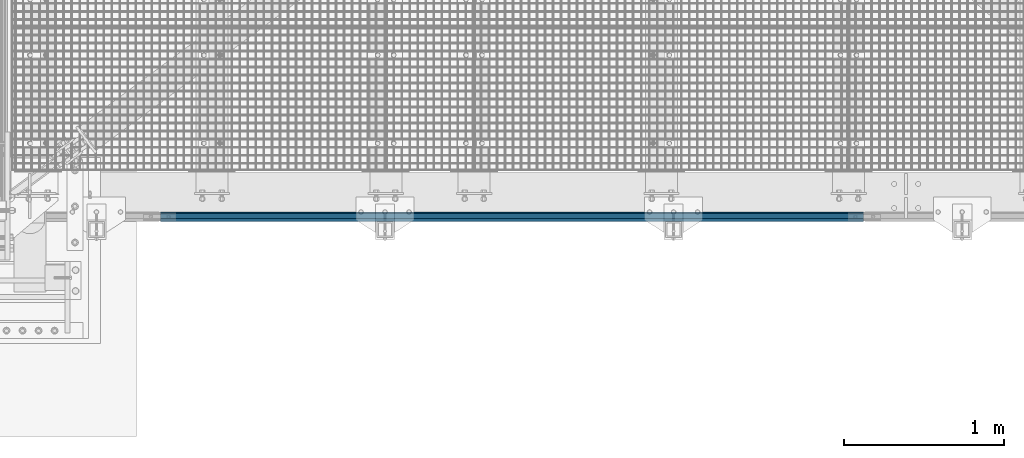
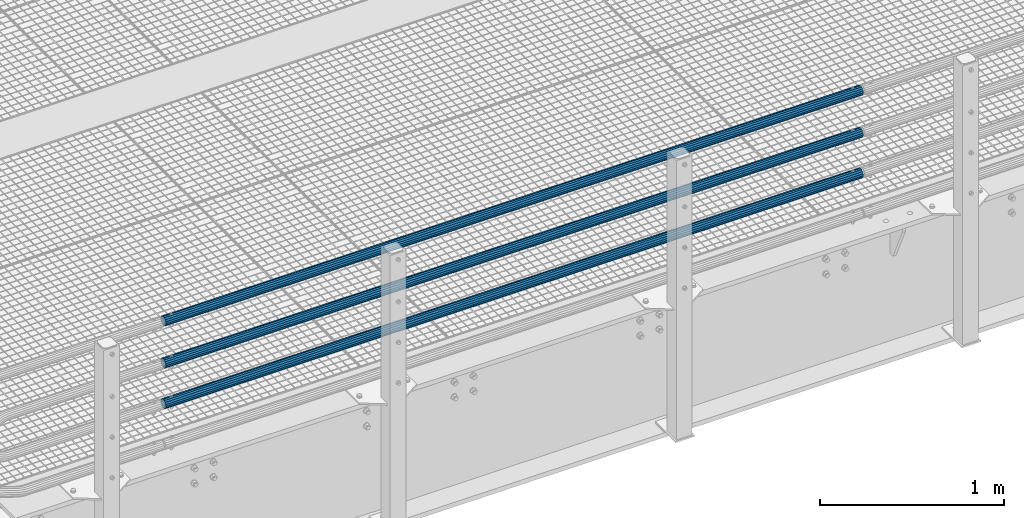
# One storey, part 160 of 1530: 3 beams.
"""IFC2X3 building model written with IfcOpenShell, lengths in millimetres."""

from ifc_helpers import new_model, si_unit, frame, origin_with_axes, place, context, subcontext, project, spatial, faceted_brep, material, type_object, element, save


model = new_model("IFC2X3")

# Units and contexts
model_context = context("Model", 3, precision=1e-05, world=origin_with_axes())
body_context = subcontext(model_context, "Body", "Model", "MODEL_VIEW")
ifc_project = project(units=[si_unit("LENGTHUNIT", "METRE", prefix="MILLI"), si_unit("AREAUNIT", "SQUARE_METRE"), si_unit("VOLUMEUNIT", "CUBIC_METRE"), si_unit("MASSUNIT", "GRAM", prefix="KILO"), si_unit("TIMEUNIT", "SECOND"), si_unit("PLANEANGLEUNIT", "RADIAN"), si_unit("SOLIDANGLEUNIT", "STERADIAN"), si_unit("THERMODYNAMICTEMPERATUREUNIT", "DEGREE_CELSIUS"), si_unit("LUMINOUSINTENSITYUNIT", "LUMEN")], contexts=[model_context])

# Site, building, storey
site_placement = place(None, origin_with_axes())
site = spatial("IfcSite", under=ifc_project, at=site_placement, Name="Brattvåg", CompositionType="ELEMENT")
building_placement = place(site_placement, origin_with_axes())
building = spatial("IfcBuilding", under=site, at=building_placement, Name="Undefined", CompositionType="ELEMENT")
storey_placement = place(building_placement, origin_with_axes())
storey = spatial("IfcBuildingStorey", under=building, at=storey_placement, Name="Undefined", CompositionType="ELEMENT", Elevation=0.0)

# Beams
ifc_material = material(Name="STEEL/S355J2H")
beam_type = type_object("IfcBeamType", Name="Ø60.3*3.6", PredefinedType="NOTDEFINED")
beam_1_placement = place(storey_placement, frame((5333.99963378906, -129.849880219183, 419.550057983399), z_axis=(0.0, 0.0, 1.0), x_axis=(-1.0, 1.99999855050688e-09, 0.0)))
element("IfcBeam", 1, at=beam_1_placement, inside=storey, type_object=beam_type, material=ifc_material, Name="STÅLBJELKE", context=body_context, shape_type="Brep", body=[
    faceted_brep([(0.0, -26.5499999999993, 0.0), (0.0, -24.5290015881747, 10.1602451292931), (4384.00053405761, -24.5290015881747, 10.1602451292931), (4384.00053405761, -26.5499999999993, 0.0), (0.0, -18.7736850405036, 18.7736850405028), (4384.00053405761, -18.7736850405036, 18.7736850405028), (0.0, -10.1602451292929, 24.5290015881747), (4384.00053405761, -10.1602451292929, 24.5290015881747), (0.0, 0.0, 26.55), (4384.00053405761, 0.0, 26.55), (0.0, 10.1602451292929, 24.5290015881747), (4384.00053405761, 10.1602451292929, 24.5290015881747), (0.0, 18.7736850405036, 18.7736850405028), (4384.00053405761, 18.7736850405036, 18.7736850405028), (0.0, 24.5290015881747, 10.1602451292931), (4384.00053405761, 24.5290015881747, 10.1602451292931), (0.0, 26.5499999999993, 0.0), (4384.00053405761, 26.5499999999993, 0.0), (0.0, 24.5290015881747, -10.1602451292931), (4384.00053405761, 24.5290015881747, -10.1602451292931), (0.0, 18.7736850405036, -18.7736850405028), (4384.00053405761, 18.7736850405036, -18.7736850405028), (0.0, 10.1602451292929, -24.5290015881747), (4384.00053405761, 10.1602451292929, -24.5290015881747), (0.0, 0.0, -26.55), (4384.00053405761, 0.0, -26.55), (0.0, -10.1602451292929, -24.5290015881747), (4384.00053405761, -10.1602451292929, -24.5290015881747), (0.0, -18.7736850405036, -18.7736850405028), (4384.00053405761, -18.7736850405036, -18.7736850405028), (0.0, -24.5290015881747, -10.1602451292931), (4384.00053405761, -24.5290015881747, -10.1602451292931), (0.0, -30.1499999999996, 0.0), (0.0, -27.8549679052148, -11.5379054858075), (4384.00053405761, -27.8549679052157, -11.5379054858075), (4384.00053405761, -30.1499999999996, 0.0), (0.0, -21.3192694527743, -21.3192694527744), (4384.00053405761, -21.3192694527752, -21.3192694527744), (0.0, -11.5379054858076, -27.8549679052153), (4384.00053405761, -11.5379054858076, -27.8549679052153), (0.0, 0.0, -30.15), (4384.00053405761, 0.0, -30.15), (0.0, 11.5379054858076, -27.8549679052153), (4384.00053405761, 11.5379054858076, -27.8549679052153), (0.0, 21.3192694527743, -21.3192694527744), (4384.00053405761, 21.3192694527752, -21.3192694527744), (0.0, 27.8549679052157, -11.5379054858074), (4384.00053405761, 27.8549679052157, -11.5379054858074), (0.0, 30.1499999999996, 0.0), (4384.00053405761, 30.1499999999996, 0.0), (0.0, 27.8549679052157, 11.5379054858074), (4384.00053405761, 27.8549679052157, 11.5379054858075), (0.0, 21.3192694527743, 21.3192694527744), (4384.00053405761, 21.3192694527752, 21.3192694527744), (0.0, 11.5379054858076, 27.8549679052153), (4384.00053405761, 11.5379054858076, 27.8549679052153), (0.0, 0.0, 30.15), (4384.00053405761, 0.0, 30.15), (0.0, -11.5379054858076, 27.8549679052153), (4384.00053405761, -11.5379054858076, 27.8549679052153), (0.0, -21.3192694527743, 21.3192694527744), (4384.00053405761, -21.3192694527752, 21.3192694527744), (0.0, -27.8549679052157, 11.5379054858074), (4384.00053405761, -27.8549679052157, 11.5379054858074)], [[[0, 1, 2, 3]], [[1, 4, 5, 2]], [[4, 6, 7, 5]], [[6, 8, 9, 7]], [[8, 10, 11, 9]], [[10, 12, 13, 11]], [[12, 14, 15, 13]], [[14, 16, 17, 15]], [[16, 18, 19, 17]], [[18, 20, 21, 19]], [[20, 22, 23, 21]], [[22, 24, 25, 23]], [[24, 26, 27, 25]], [[26, 28, 29, 27]], [[28, 30, 31, 29]], [[30, 0, 3, 31]], [[32, 33, 34, 35]], [[33, 36, 37, 34]], [[36, 38, 39, 37]], [[38, 40, 41, 39]], [[40, 42, 43, 41]], [[42, 44, 45, 43]], [[44, 46, 47, 45]], [[46, 48, 49, 47]], [[48, 50, 51, 49]], [[50, 52, 53, 51]], [[52, 54, 55, 53]], [[54, 56, 57, 55]], [[56, 58, 59, 57]], [[58, 60, 61, 59]], [[60, 62, 63, 61]], [[62, 32, 35, 63]], [[37, 39, 41, 43, 45, 47, 49, 51, 53, 55, 57, 59, 61, 63, 35, 34], [5, 7, 9, 11, 13, 15, 17, 19, 21, 23, 25, 27, 29, 31, 3, 2]], [[62, 60, 58, 56, 54, 52, 50, 48, 46, 44, 42, 40, 38, 36, 33, 32], [30, 28, 26, 24, 22, 20, 18, 16, 14, 12, 10, 8, 6, 4, 1, 0]]]),
])
beam_2_placement = place(storey_placement, frame((5333.99963378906, -129.849880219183, 689.550057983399), z_axis=(0.0, 0.0, 1.0), x_axis=(-1.0, 1.99999855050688e-09, 0.0)))
element("IfcBeam", 2, at=beam_2_placement, inside=storey, type_object=beam_type, material=ifc_material, Name="STÅLBJELKE", context=body_context, shape_type="Brep", body=[
    faceted_brep([(0.0, -26.5499999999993, 0.0), (0.0, -24.5290015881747, 10.1602451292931), (4384.00053405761, -24.5290015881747, 10.1602451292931), (4384.00053405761, -26.5499999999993, 0.0), (0.0, -18.7736850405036, 18.7736850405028), (4384.00053405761, -18.7736850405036, 18.7736850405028), (0.0, -10.1602451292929, 24.5290015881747), (4384.00053405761, -10.1602451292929, 24.5290015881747), (0.0, 0.0, 26.55), (4384.00053405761, 0.0, 26.55), (0.0, 10.1602451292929, 24.5290015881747), (4384.00053405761, 10.1602451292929, 24.5290015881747), (0.0, 18.7736850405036, 18.7736850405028), (4384.00053405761, 18.7736850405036, 18.7736850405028), (0.0, 24.5290015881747, 10.1602451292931), (4384.00053405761, 24.5290015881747, 10.1602451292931), (0.0, 26.5499999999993, 0.0), (4384.00053405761, 26.5499999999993, 0.0), (0.0, 24.5290015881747, -10.1602451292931), (4384.00053405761, 24.5290015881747, -10.1602451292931), (0.0, 18.7736850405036, -18.7736850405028), (4384.00053405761, 18.7736850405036, -18.7736850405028), (0.0, 10.1602451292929, -24.5290015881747), (4384.00053405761, 10.1602451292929, -24.5290015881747), (0.0, 0.0, -26.55), (4384.00053405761, 0.0, -26.55), (0.0, -10.1602451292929, -24.5290015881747), (4384.00053405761, -10.1602451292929, -24.5290015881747), (0.0, -18.7736850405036, -18.7736850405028), (4384.00053405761, -18.7736850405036, -18.7736850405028), (0.0, -24.5290015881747, -10.1602451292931), (4384.00053405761, -24.5290015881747, -10.1602451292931), (0.0, -30.1499999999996, 0.0), (0.0, -27.8549679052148, -11.5379054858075), (4384.00053405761, -27.8549679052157, -11.5379054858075), (4384.00053405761, -30.1499999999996, 0.0), (0.0, -21.3192694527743, -21.3192694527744), (4384.00053405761, -21.3192694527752, -21.3192694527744), (0.0, -11.5379054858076, -27.8549679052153), (4384.00053405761, -11.5379054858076, -27.8549679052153), (0.0, 0.0, -30.15), (4384.00053405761, 0.0, -30.15), (0.0, 11.5379054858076, -27.8549679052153), (4384.00053405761, 11.5379054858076, -27.8549679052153), (0.0, 21.3192694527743, -21.3192694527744), (4384.00053405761, 21.3192694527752, -21.3192694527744), (0.0, 27.8549679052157, -11.5379054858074), (4384.00053405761, 27.8549679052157, -11.5379054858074), (0.0, 30.1499999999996, 0.0), (4384.00053405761, 30.1499999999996, 0.0), (0.0, 27.8549679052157, 11.5379054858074), (4384.00053405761, 27.8549679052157, 11.5379054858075), (0.0, 21.3192694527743, 21.3192694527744), (4384.00053405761, 21.3192694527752, 21.3192694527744), (0.0, 11.5379054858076, 27.8549679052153), (4384.00053405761, 11.5379054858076, 27.8549679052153), (0.0, 0.0, 30.15), (4384.00053405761, 0.0, 30.15), (0.0, -11.5379054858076, 27.8549679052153), (4384.00053405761, -11.5379054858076, 27.8549679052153), (0.0, -21.3192694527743, 21.3192694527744), (4384.00053405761, -21.3192694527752, 21.3192694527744), (0.0, -27.8549679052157, 11.5379054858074), (4384.00053405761, -27.8549679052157, 11.5379054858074)], [[[0, 1, 2, 3]], [[1, 4, 5, 2]], [[4, 6, 7, 5]], [[6, 8, 9, 7]], [[8, 10, 11, 9]], [[10, 12, 13, 11]], [[12, 14, 15, 13]], [[14, 16, 17, 15]], [[16, 18, 19, 17]], [[18, 20, 21, 19]], [[20, 22, 23, 21]], [[22, 24, 25, 23]], [[24, 26, 27, 25]], [[26, 28, 29, 27]], [[28, 30, 31, 29]], [[30, 0, 3, 31]], [[32, 33, 34, 35]], [[33, 36, 37, 34]], [[36, 38, 39, 37]], [[38, 40, 41, 39]], [[40, 42, 43, 41]], [[42, 44, 45, 43]], [[44, 46, 47, 45]], [[46, 48, 49, 47]], [[48, 50, 51, 49]], [[50, 52, 53, 51]], [[52, 54, 55, 53]], [[54, 56, 57, 55]], [[56, 58, 59, 57]], [[58, 60, 61, 59]], [[60, 62, 63, 61]], [[62, 32, 35, 63]], [[37, 39, 41, 43, 45, 47, 49, 51, 53, 55, 57, 59, 61, 63, 35, 34], [5, 7, 9, 11, 13, 15, 17, 19, 21, 23, 25, 27, 29, 31, 3, 2]], [[62, 60, 58, 56, 54, 52, 50, 48, 46, 44, 42, 40, 38, 36, 33, 32], [30, 28, 26, 24, 22, 20, 18, 16, 14, 12, 10, 8, 6, 4, 1, 0]]]),
])
beam_3_placement = place(storey_placement, frame((5333.99963378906, -129.849880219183, 969.550057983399), z_axis=(0.0, 0.0, 1.0), x_axis=(-1.0, 1.99999855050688e-09, 0.0)))
element("IfcBeam", 3, at=beam_3_placement, inside=storey, type_object=beam_type, material=ifc_material, Name="STÅLBJELKE", context=body_context, shape_type="Brep", body=[
    faceted_brep([(0.0, -26.5499999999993, 0.0), (0.0, -24.5290015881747, 10.1602451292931), (4384.00053405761, -24.5290015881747, 10.1602451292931), (4384.00053405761, -26.5499999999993, 0.0), (0.0, -18.7736850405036, 18.7736850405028), (4384.00053405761, -18.7736850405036, 18.7736850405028), (0.0, -10.1602451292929, 24.5290015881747), (4384.00053405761, -10.1602451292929, 24.5290015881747), (0.0, 0.0, 26.55), (4384.00053405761, 0.0, 26.55), (0.0, 10.1602451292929, 24.5290015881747), (4384.00053405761, 10.1602451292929, 24.5290015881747), (0.0, 18.7736850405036, 18.7736850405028), (4384.00053405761, 18.7736850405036, 18.7736850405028), (0.0, 24.5290015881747, 10.1602451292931), (4384.00053405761, 24.5290015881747, 10.1602451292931), (0.0, 26.5499999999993, 0.0), (4384.00053405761, 26.5499999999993, 0.0), (0.0, 24.5290015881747, -10.1602451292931), (4384.00053405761, 24.5290015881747, -10.1602451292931), (0.0, 18.7736850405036, -18.7736850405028), (4384.00053405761, 18.7736850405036, -18.7736850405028), (0.0, 10.1602451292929, -24.5290015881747), (4384.00053405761, 10.1602451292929, -24.5290015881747), (0.0, 0.0, -26.55), (4384.00053405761, 0.0, -26.55), (0.0, -10.1602451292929, -24.5290015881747), (4384.00053405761, -10.1602451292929, -24.5290015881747), (0.0, -18.7736850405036, -18.7736850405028), (4384.00053405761, -18.7736850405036, -18.7736850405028), (0.0, -24.5290015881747, -10.1602451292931), (4384.00053405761, -24.5290015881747, -10.1602451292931), (0.0, -30.1499999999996, 0.0), (0.0, -27.8549679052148, -11.5379054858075), (4384.00053405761, -27.8549679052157, -11.5379054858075), (4384.00053405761, -30.1499999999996, 0.0), (0.0, -21.3192694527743, -21.3192694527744), (4384.00053405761, -21.3192694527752, -21.3192694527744), (0.0, -11.5379054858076, -27.8549679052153), (4384.00053405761, -11.5379054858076, -27.8549679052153), (0.0, 0.0, -30.15), (4384.00053405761, 0.0, -30.15), (0.0, 11.5379054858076, -27.8549679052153), (4384.00053405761, 11.5379054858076, -27.8549679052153), (0.0, 21.3192694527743, -21.3192694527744), (4384.00053405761, 21.3192694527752, -21.3192694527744), (0.0, 27.8549679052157, -11.5379054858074), (4384.00053405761, 27.8549679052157, -11.5379054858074), (0.0, 30.1499999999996, 0.0), (4384.00053405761, 30.1499999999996, 0.0), (0.0, 27.8549679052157, 11.5379054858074), (4384.00053405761, 27.8549679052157, 11.5379054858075), (0.0, 21.3192694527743, 21.3192694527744), (4384.00053405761, 21.3192694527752, 21.3192694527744), (0.0, 11.5379054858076, 27.8549679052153), (4384.00053405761, 11.5379054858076, 27.8549679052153), (0.0, 0.0, 30.15), (4384.00053405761, 0.0, 30.15), (0.0, -11.5379054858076, 27.8549679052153), (4384.00053405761, -11.5379054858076, 27.8549679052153), (0.0, -21.3192694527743, 21.3192694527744), (4384.00053405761, -21.3192694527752, 21.3192694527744), (0.0, -27.8549679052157, 11.5379054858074), (4384.00053405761, -27.8549679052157, 11.5379054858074)], [[[0, 1, 2, 3]], [[1, 4, 5, 2]], [[4, 6, 7, 5]], [[6, 8, 9, 7]], [[8, 10, 11, 9]], [[10, 12, 13, 11]], [[12, 14, 15, 13]], [[14, 16, 17, 15]], [[16, 18, 19, 17]], [[18, 20, 21, 19]], [[20, 22, 23, 21]], [[22, 24, 25, 23]], [[24, 26, 27, 25]], [[26, 28, 29, 27]], [[28, 30, 31, 29]], [[30, 0, 3, 31]], [[32, 33, 34, 35]], [[33, 36, 37, 34]], [[36, 38, 39, 37]], [[38, 40, 41, 39]], [[40, 42, 43, 41]], [[42, 44, 45, 43]], [[44, 46, 47, 45]], [[46, 48, 49, 47]], [[48, 50, 51, 49]], [[50, 52, 53, 51]], [[52, 54, 55, 53]], [[54, 56, 57, 55]], [[56, 58, 59, 57]], [[58, 60, 61, 59]], [[60, 62, 63, 61]], [[62, 32, 35, 63]], [[37, 39, 41, 43, 45, 47, 49, 51, 53, 55, 57, 59, 61, 63, 35, 34], [5, 7, 9, 11, 13, 15, 17, 19, 21, 23, 25, 27, 29, 31, 3, 2]], [[62, 60, 58, 56, 54, 52, 50, 48, 46, 44, 42, 40, 38, 36, 33, 32], [30, 28, 26, 24, 22, 20, 18, 16, 14, 12, 10, 8, 6, 4, 1, 0]]]),
])

save(model, "model.ifc")
